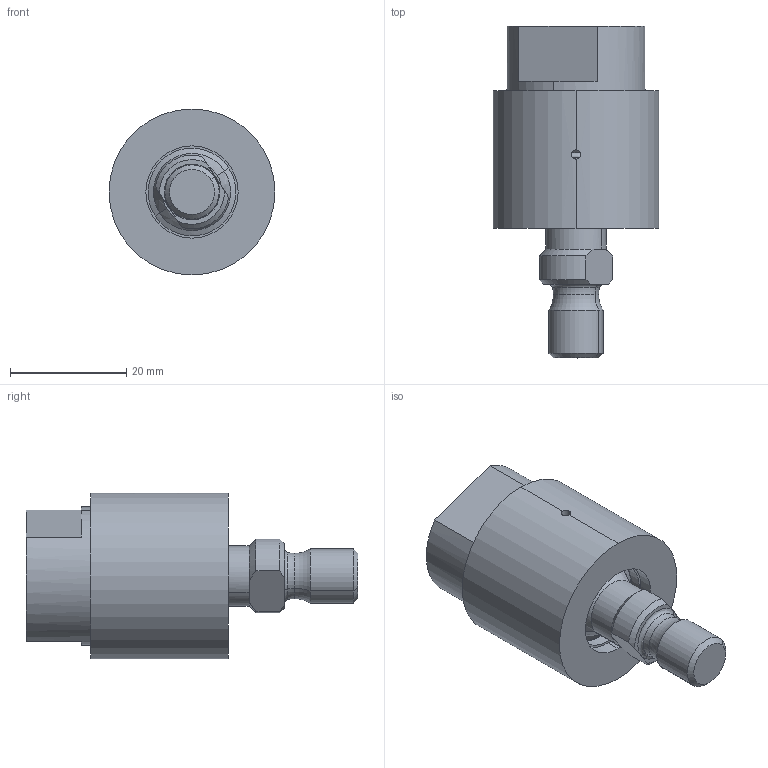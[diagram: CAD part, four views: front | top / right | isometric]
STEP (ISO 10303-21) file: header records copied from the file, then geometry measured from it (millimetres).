
FILE_DESCRIPTION (( 'STEP AP203' ), '1' );
FILE_NAME ('R010-01224.STEP', '2015-02-10T13:40:39', ( '' ), ( '' ), 'SwSTEP 2.0', 'SolidWorks 2014', '' );
FILE_SCHEMA (( 'CONFIG_CONTROL_DESIGN' ));
Length unit declared in the file: inch
Products named in the file (1): R010-01224
Bounding box: 28.57 x 57.15 x 28.57 mm (x, y, z)
Volume: 19171.4 mm3; surface area: 10893.2 mm2
Topology: 5 solids, 5 shells, 89 faces, 205 edges, 123 vertices
Faces by surface type: cylinder 32, plane 23, cone 14, torus 12, sphere 8
Entity records: 2670 total; most frequent: CARTESIAN_POINT 506, DIRECTION 491, ORIENTED_EDGE 406, AXIS2_PLACEMENT_3D 214, EDGE_CURVE 203, CIRCLE 124, VERTEX_POINT 123, EDGE_LOOP 96
